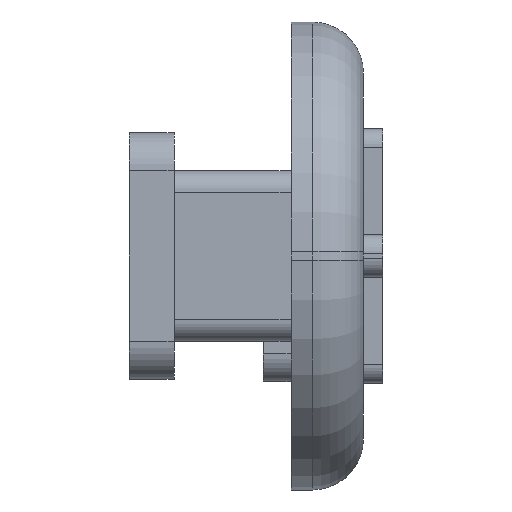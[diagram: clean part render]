
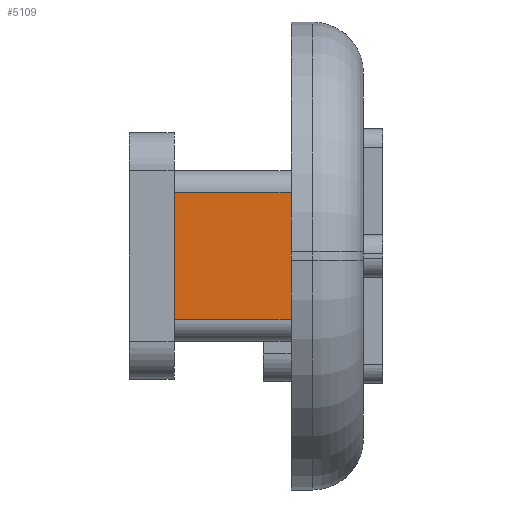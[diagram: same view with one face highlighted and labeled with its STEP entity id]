
A CAD part, front view. The second image highlights one B-rep face of the part: STEP entity #5109.
In plain terms, the highlighted planar face has unit normal (0, -1, 0).
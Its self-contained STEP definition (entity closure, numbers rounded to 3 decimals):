
#1899 = PLANE('',#1900);
#1900 = AXIS2_PLACEMENT_3D('',#1901,#1902,#1903);
#1901 = CARTESIAN_POINT('',(39.3,23.,-14.75));
#1902 = DIRECTION('',(-1.,0.,0.));
#1903 = DIRECTION('',(0.,0.,1.));
#3846 = PLANE('',#3847);
#3847 = AXIS2_PLACEMENT_3D('',#3848,#3849,#3850);
#3848 = CARTESIAN_POINT('',(36.55,16.2,-14.75));
#3849 = DIRECTION('',(-1.,0.,0.));
#3850 = DIRECTION('',(0.,0.,1.));
#4194 = VERTEX_POINT('',#4195);
#4195 = CARTESIAN_POINT('',(36.55,15.6,-16.25));
#4214 = CYLINDRICAL_SURFACE('',#4215,0.5);
#4215 = AXIS2_PLACEMENT_3D('',#4216,#4217,#4218);
#4216 = CARTESIAN_POINT('',(39.5,16.1,-16.25));
#4217 = DIRECTION('',(-1.,0.,0.));
#4218 = DIRECTION('',(0.,0.,-1.));
#4226 = EDGE_CURVE('',#4227,#4194,#4229,.T.);
#4227 = VERTEX_POINT('',#4228);
#4228 = CARTESIAN_POINT('',(36.55,15.6,-13.25));
#4229 = SURFACE_CURVE('',#4230,(#4234,#4241),.PCURVE_S1.);
#4230 = LINE('',#4231,#4232);
#4231 = CARTESIAN_POINT('',(36.55,15.6,-15.5));
#4232 = VECTOR('',#4233,1.);
#4233 = DIRECTION('',(0.,0.,-1.));
#4234 = PCURVE('',#3846,#4235);
#4235 = DEFINITIONAL_REPRESENTATION('',(#4236),#4240);
#4236 = LINE('',#4237,#4238);
#4237 = CARTESIAN_POINT('',(-0.75,-0.6));
#4238 = VECTOR('',#4239,1.);
#4239 = DIRECTION('',(-1.,0.));
#4240 = ( GEOMETRIC_REPRESENTATION_CONTEXT(2) 
PARAMETRIC_REPRESENTATION_CONTEXT() REPRESENTATION_CONTEXT('2D SPACE',''
  ) );
#4241 = PCURVE('',#4242,#4247);
#4242 = PLANE('',#4243);
#4243 = AXIS2_PLACEMENT_3D('',#4244,#4245,#4246);
#4244 = CARTESIAN_POINT('',(39.5,15.6,-16.25));
#4245 = DIRECTION('',(0.,-1.,-0.));
#4246 = DIRECTION('',(0.,0.,1.));
#4247 = DEFINITIONAL_REPRESENTATION('',(#4248),#4252);
#4248 = LINE('',#4249,#4250);
#4249 = CARTESIAN_POINT('',(0.75,2.95));
#4250 = VECTOR('',#4251,1.);
#4251 = DIRECTION('',(-1.,0.));
#4252 = ( GEOMETRIC_REPRESENTATION_CONTEXT(2) 
PARAMETRIC_REPRESENTATION_CONTEXT() REPRESENTATION_CONTEXT('2D SPACE',''
  ) );
#4275 = CYLINDRICAL_SURFACE('',#4276,0.5);
#4276 = AXIS2_PLACEMENT_3D('',#4277,#4278,#4279);
#4277 = CARTESIAN_POINT('',(39.5,16.1,-13.25));
#4278 = DIRECTION('',(-1.,0.,0.));
#4279 = DIRECTION('',(0.,-1.,-0.));
#4753 = VERTEX_POINT('',#4754);
#4754 = CARTESIAN_POINT('',(39.3,15.6,-16.25));
#4780 = EDGE_CURVE('',#4753,#4194,#4781,.T.);
#4781 = SURFACE_CURVE('',#4782,(#4786,#4793),.PCURVE_S1.);
#4782 = LINE('',#4783,#4784);
#4783 = CARTESIAN_POINT('',(39.5,15.6,-16.25));
#4784 = VECTOR('',#4785,1.);
#4785 = DIRECTION('',(-1.,0.,0.));
#4786 = PCURVE('',#4214,#4787);
#4787 = DEFINITIONAL_REPRESENTATION('',(#4788),#4792);
#4788 = LINE('',#4789,#4790);
#4789 = CARTESIAN_POINT('',(1.571,0.));
#4790 = VECTOR('',#4791,1.);
#4791 = DIRECTION('',(0.,1.));
#4792 = ( GEOMETRIC_REPRESENTATION_CONTEXT(2) 
PARAMETRIC_REPRESENTATION_CONTEXT() REPRESENTATION_CONTEXT('2D SPACE',''
  ) );
#4793 = PCURVE('',#4242,#4794);
#4794 = DEFINITIONAL_REPRESENTATION('',(#4795),#4799);
#4795 = LINE('',#4796,#4797);
#4796 = CARTESIAN_POINT('',(0.,0.));
#4797 = VECTOR('',#4798,1.);
#4798 = DIRECTION('',(0.,1.));
#4799 = ( GEOMETRIC_REPRESENTATION_CONTEXT(2) 
PARAMETRIC_REPRESENTATION_CONTEXT() REPRESENTATION_CONTEXT('2D SPACE',''
  ) );
#5060 = EDGE_CURVE('',#5061,#4227,#5063,.T.);
#5061 = VERTEX_POINT('',#5062);
#5062 = CARTESIAN_POINT('',(39.3,15.6,-13.25));
#5063 = SURFACE_CURVE('',#5064,(#5068,#5075),.PCURVE_S1.);
#5064 = LINE('',#5065,#5066);
#5065 = CARTESIAN_POINT('',(39.5,15.6,-13.25));
#5066 = VECTOR('',#5067,1.);
#5067 = DIRECTION('',(-1.,0.,0.));
#5068 = PCURVE('',#4275,#5069);
#5069 = DEFINITIONAL_REPRESENTATION('',(#5070),#5074);
#5070 = LINE('',#5071,#5072);
#5071 = CARTESIAN_POINT('',(0.,0.));
#5072 = VECTOR('',#5073,1.);
#5073 = DIRECTION('',(0.,1.));
#5074 = ( GEOMETRIC_REPRESENTATION_CONTEXT(2) 
PARAMETRIC_REPRESENTATION_CONTEXT() REPRESENTATION_CONTEXT('2D SPACE',''
  ) );
#5075 = PCURVE('',#4242,#5076);
#5076 = DEFINITIONAL_REPRESENTATION('',(#5077),#5081);
#5077 = LINE('',#5078,#5079);
#5078 = CARTESIAN_POINT('',(3.,0.));
#5079 = VECTOR('',#5080,1.);
#5080 = DIRECTION('',(0.,1.));
#5081 = ( GEOMETRIC_REPRESENTATION_CONTEXT(2) 
PARAMETRIC_REPRESENTATION_CONTEXT() REPRESENTATION_CONTEXT('2D SPACE',''
  ) );
#5109 = ADVANCED_FACE('',(#5110),#4242,.T.);
#5110 = FACE_BOUND('',#5111,.T.);
#5111 = EDGE_LOOP('',(#5112,#5113,#5114,#5135));
#5112 = ORIENTED_EDGE('',*,*,#4226,.T.);
#5113 = ORIENTED_EDGE('',*,*,#4780,.F.);
#5114 = ORIENTED_EDGE('',*,*,#5115,.F.);
#5115 = EDGE_CURVE('',#5061,#4753,#5116,.T.);
#5116 = SURFACE_CURVE('',#5117,(#5121,#5128),.PCURVE_S1.);
#5117 = LINE('',#5118,#5119);
#5118 = CARTESIAN_POINT('',(39.3,15.6,-15.5));
#5119 = VECTOR('',#5120,1.);
#5120 = DIRECTION('',(0.,0.,-1.));
#5121 = PCURVE('',#4242,#5122);
#5122 = DEFINITIONAL_REPRESENTATION('',(#5123),#5127);
#5123 = LINE('',#5124,#5125);
#5124 = CARTESIAN_POINT('',(0.75,0.2));
#5125 = VECTOR('',#5126,1.);
#5126 = DIRECTION('',(-1.,0.));
#5127 = ( GEOMETRIC_REPRESENTATION_CONTEXT(2) 
PARAMETRIC_REPRESENTATION_CONTEXT() REPRESENTATION_CONTEXT('2D SPACE',''
  ) );
#5128 = PCURVE('',#1899,#5129);
#5129 = DEFINITIONAL_REPRESENTATION('',(#5130),#5134);
#5130 = LINE('',#5131,#5132);
#5131 = CARTESIAN_POINT('',(-0.75,-7.4));
#5132 = VECTOR('',#5133,1.);
#5133 = DIRECTION('',(-1.,0.));
#5134 = ( GEOMETRIC_REPRESENTATION_CONTEXT(2) 
PARAMETRIC_REPRESENTATION_CONTEXT() REPRESENTATION_CONTEXT('2D SPACE',''
  ) );
#5135 = ORIENTED_EDGE('',*,*,#5060,.T.);
